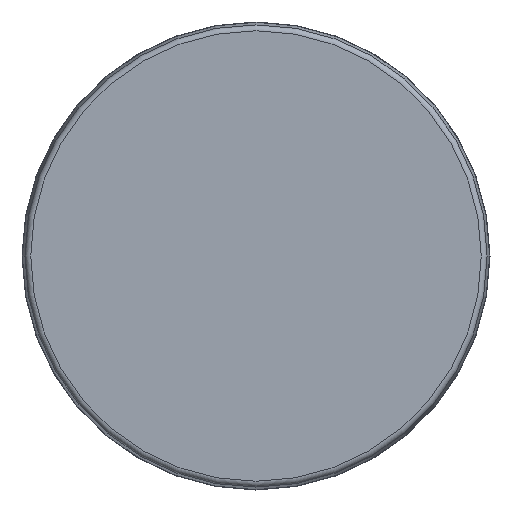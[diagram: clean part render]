
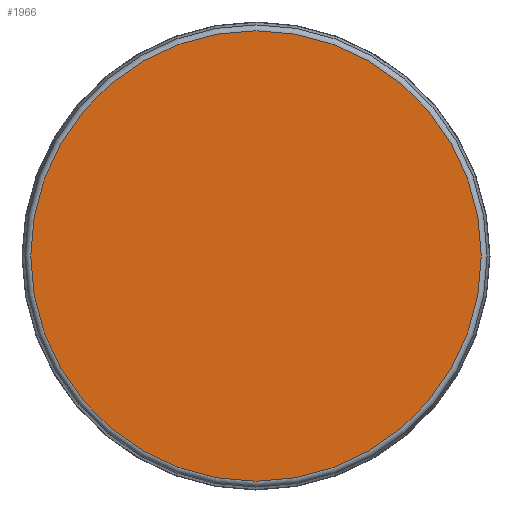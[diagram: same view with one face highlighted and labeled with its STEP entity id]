
A CAD part, front view. The second image highlights one B-rep face of the part: STEP entity #1966.
In plain terms, the highlighted planar face has unit normal (0, -1, 0).
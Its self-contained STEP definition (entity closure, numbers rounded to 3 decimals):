
#122=PLANE('',#2145);
#200=FACE_OUTER_BOUND('',#311,.T.);
#311=EDGE_LOOP('',(#1408,#1409));
#569=CIRCLE('',#2146,38.502);
#570=CIRCLE('',#2147,38.502);
#803=VERTEX_POINT('',#3277);
#804=VERTEX_POINT('',#3278);
#1047=EDGE_CURVE('',#803,#804,#569,.T.);
#1048=EDGE_CURVE('',#804,#803,#570,.T.);
#1408=ORIENTED_EDGE('',*,*,#1047,.F.);
#1409=ORIENTED_EDGE('',*,*,#1048,.F.);
#1966=ADVANCED_FACE('',(#200),#122,.T.);
#2145=AXIS2_PLACEMENT_3D('',#3276,#2564,#2565);
#2146=AXIS2_PLACEMENT_3D('',#3279,#2566,#2567);
#2147=AXIS2_PLACEMENT_3D('',#3280,#2568,#2569);
#2564=DIRECTION('center_axis',(0.,-1.,0.));
#2565=DIRECTION('ref_axis',(0.,0.,-1.));
#2566=DIRECTION('center_axis',(0.,1.,0.));
#2567=DIRECTION('ref_axis',(1.,0.,0.));
#2568=DIRECTION('center_axis',(0.,1.,0.));
#2569=DIRECTION('ref_axis',(1.,0.,0.));
#3276=CARTESIAN_POINT('Origin',(-38.502,-3.,0.));
#3277=CARTESIAN_POINT('',(-38.502,-3.,0.));
#3278=CARTESIAN_POINT('',(0.,-3.,-38.502));
#3279=CARTESIAN_POINT('Origin',(0.,-3.,
0.));
#3280=CARTESIAN_POINT('Origin',(0.,-3.,
0.));
